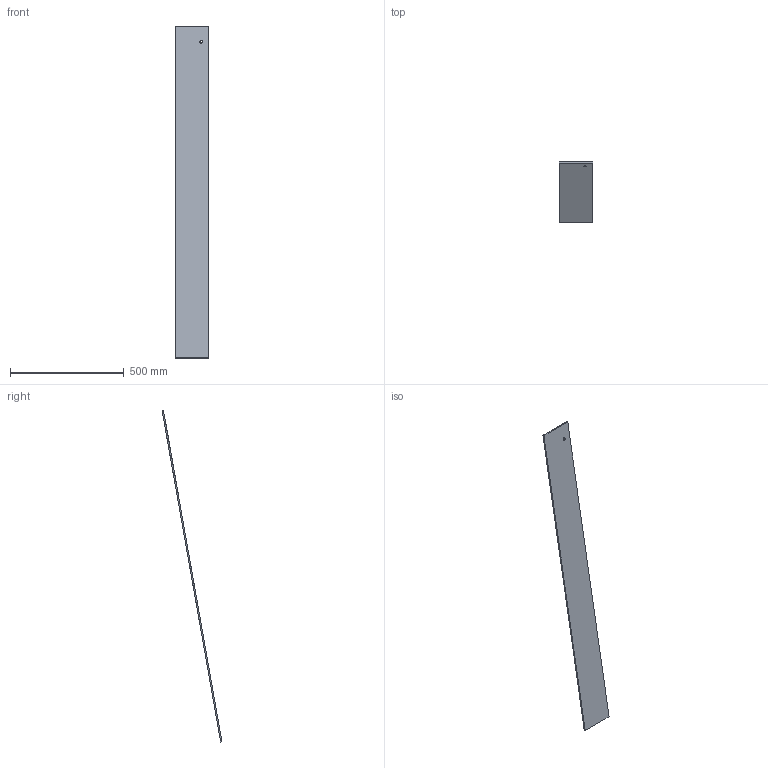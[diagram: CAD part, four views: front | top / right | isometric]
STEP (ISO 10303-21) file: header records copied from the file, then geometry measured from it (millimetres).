
FILE_DESCRIPTION(('golf model'),'2;1');
FILE_NAME('golf','',(''),(''),'golf_step_io','golf','');
FILE_SCHEMA(('AUTOMOTIVE_DESIGN { 1 0 10303 214 1 1 1 1 }'));
Length unit declared in the file: millimetre
Products named in the file (2): ASSEMBLY; gantry_frame.flange_back
Assembly tree (1 placements, depth 2):
  ASSEMBLY
    gantry_frame.flange_back
Bounding box: 148 x 262.56 x 1456.59 mm (x, y, z)
Volume: 1311715.9 mm3; surface area: 456988.1 mm2
Topology: 1 solids, 1 shells, 7 faces, 15 edges, 10 vertices
Faces by surface type: plane 6, cylinder 1
Full cylindrical faces by diameter (mm): 12.6 x1
Entity records: 224 total; most frequent: DIRECTION 34, CARTESIAN_POINT 33, ORIENTED_EDGE 28, EDGE_CURVE 14, VECTOR 12, LINE 12, AXIS2_PLACEMENT_3D 11, VERTEX_POINT 10
